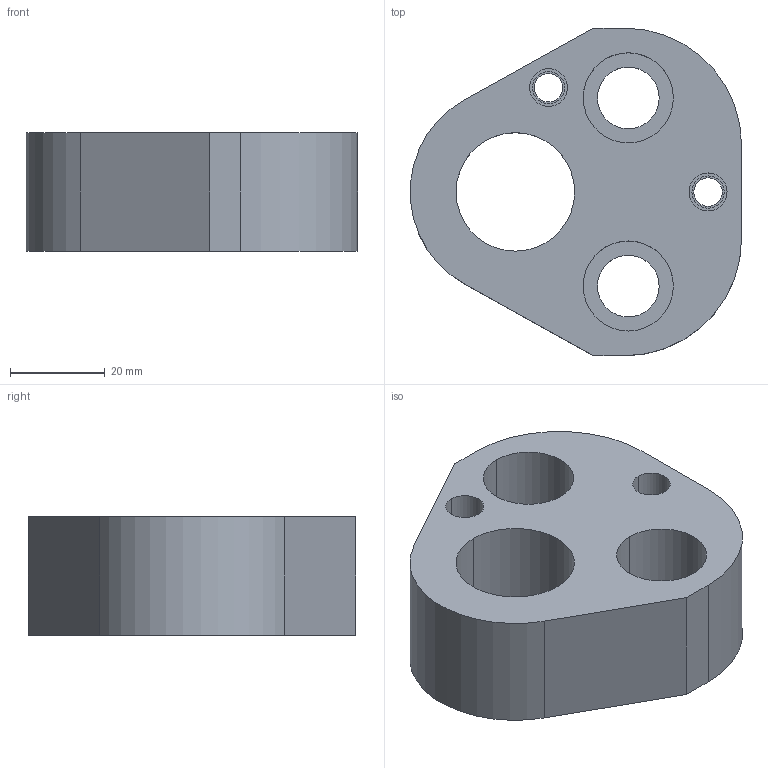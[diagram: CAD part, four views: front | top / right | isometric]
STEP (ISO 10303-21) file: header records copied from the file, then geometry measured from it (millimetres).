
FILE_DESCRIPTION(/* description */ (''),/* implementation_level */ '2;1');
FILE_NAME(/* name */ '3d_25crn-a25_03121_r00.stp',/* time_stamp */ '2011-01-10T14:17:55+09:00',/* author */ ('MISUMI'),/* organization */ (''),/* preprocessor_version */ 'ST-DEVELOPER v11',/* originating_system */ 'UGS - NX 5.0',/* authorisation */ '');
FILE_SCHEMA (('CONFIG_CONTROL_DESIGN'));
Length unit declared in the file: millimetre
Products named in the file (1): 3d_25crn-a25_03121_r00
Bounding box: 69.83 x 69.1 x 25 mm (x, y, z)
Volume: 66102.4 mm3; surface area: 16919.8 mm2
Topology: 1 solids, 1 shells, 43 faces, 100 edges, 66 vertices
Faces by surface type: cylinder 27, plane 14, cone 2
Entity records: 1360 total; most frequent: DIRECTION 244, CARTESIAN_POINT 210, ORIENTED_EDGE 200, EDGE_CURVE 100, AXIS2_PLACEMENT_3D 100, VERTEX_POINT 66, EDGE_LOOP 60, CIRCLE 56
